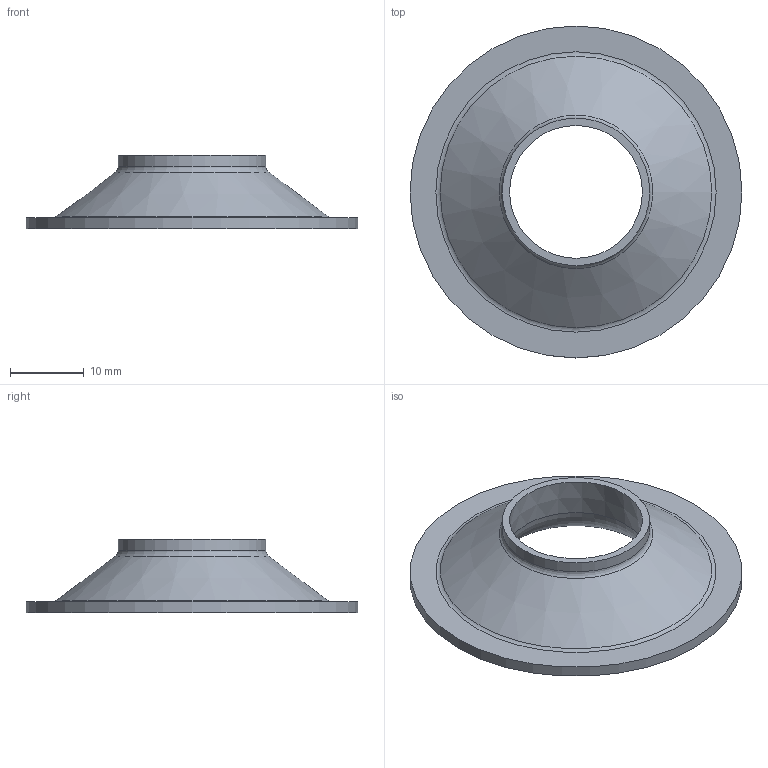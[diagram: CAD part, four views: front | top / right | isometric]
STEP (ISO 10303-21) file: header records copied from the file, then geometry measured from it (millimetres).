
FILE_DESCRIPTION( ('This file contains a STEP AP42 implementation' ,'as created by ZW3D STEP Interface translator.') ,'2;1' );
FILE_NAME( 'KM-18.stp' ,'26 5 8. 746 9', (''), ('ZWCAD Software Co.'), 'Version 1.0', 'ZW3D to STEP translator', '' );
FILE_SCHEMA(('AP242_MANAGED_MODEL_BASED_3D_ENGINEERING_MIM_LF { 1 0 10303 442 1 1 4 }'));
Length unit declared in the file: millimetre
Products named in the file (1): 0
Bounding box: 45 x 45 x 10 mm (x, y, z)
Volume: 4244.5 mm3; surface area: 3642.7 mm2
Topology: 1 solids, 1 shells, 10 faces, 17 edges, 10 vertices
Faces by surface type: plane 3, torus 3, cylinder 2, cone 2
Full cylindrical faces by diameter (mm): 20 x1, 45 x1
Entity records: 276 total; most frequent: DIRECTION 52, CARTESIAN_POINT 38, ORIENTED_EDGE 34, AXIS2_PLACEMENT_3D 24, EDGE_CURVE 17, CIRCLE 13, EDGE_LOOP 13, VERTEX_POINT 10
